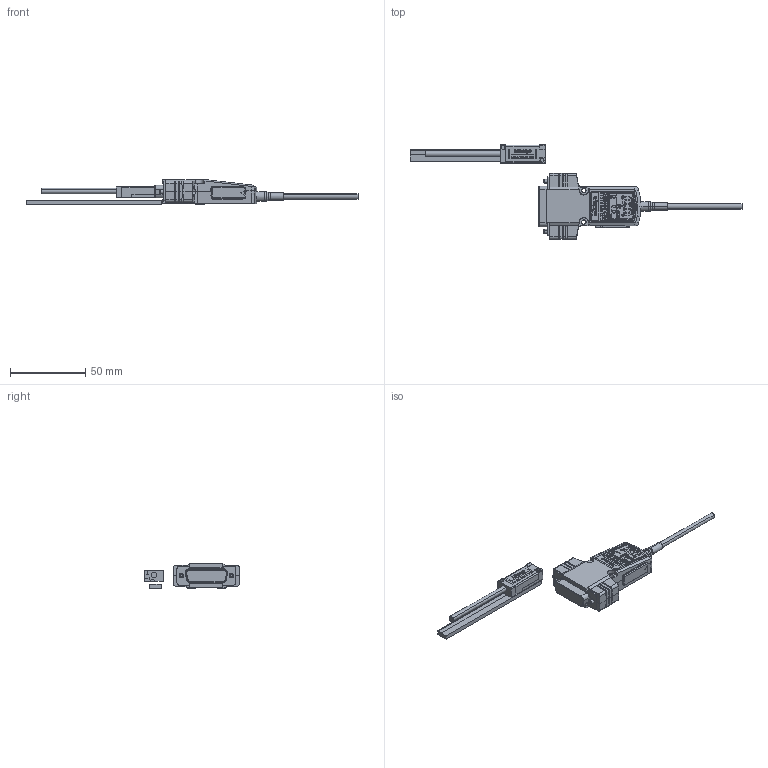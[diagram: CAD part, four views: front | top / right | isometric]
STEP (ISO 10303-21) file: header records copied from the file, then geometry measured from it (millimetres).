
FILE_DESCRIPTION(('Creo Elements/Direct Modeling STEP Export'),'2;1');
FILE_NAME('ST46EZA-75B.stp','2017-09-08T13:26:54',(''),(''),'Creo Elements/Direct Modeling STEP processor for AP214 (Solid Model)','Creo Elements/Direct Modeling 18.1B 29-Sep-2012 (C) Parametric Technology GmbH','');
FILE_SCHEMA(('AUTOMOTIVE_DESIGN { 1 0 10303 214 1 1 1 1 }'));
Length unit declared in the file: millimetre
Products named in the file (4): Scale_75; Detector_Head; IF_Unit; ST46EZA-75B
Assembly tree (3 placements, depth 2):
  ST46EZA-75B
    IF_Unit
    Detector_Head
    Scale_75
Bounding box: 221 x 63.16 x 16.48 mm (x, y, z)
Volume: 5174.7 mm3; surface area: 15742.2 mm2
Topology: 2 solids, 4 shells, 2224 faces, 5934 edges, 3867 vertices
Faces by surface type: plane 1364, cylinder 724, extrusion 39, cone 34, torus 30, bspline 29, revolution 4
Entity records: 76110 total; most frequent: CARTESIAN_POINT 20108, ORIENTED_EDGE 11859, DIRECTION 10883, EDGE_CURVE 5934, VECTOR 4071, LINE 4052, VERTEX_POINT 3867, AXIS2_PLACEMENT_3D 3403
